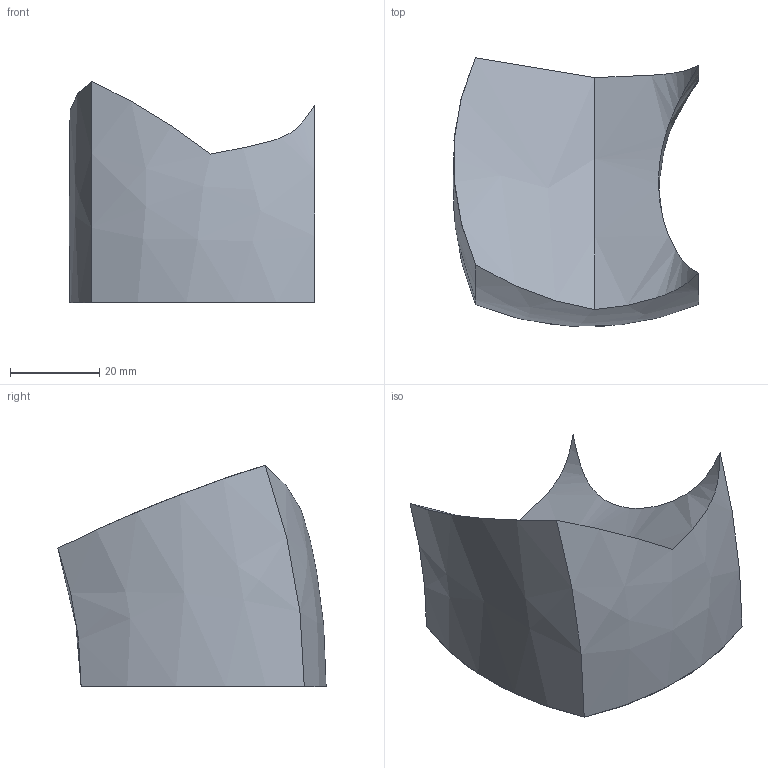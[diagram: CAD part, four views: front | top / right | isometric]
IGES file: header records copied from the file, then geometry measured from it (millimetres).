
Global section: file name: B_Ex_08_2; native system: AutoCAD 2020 - English; preprocessor: Autodesk Translation Framework DWG producer (atf_dwg_producer); organization: unknown; date: 20200302.153749; units: millimetre
Bounding box: 55 x 60.11 x 49.69 mm (x, y, z)
Volume: 72229.1 mm3; surface area: 16705.6 mm2
Topology: 1 solids, 1 shells, 9 faces, 24 edges, 20 vertices
Faces by surface type: bspline 9
